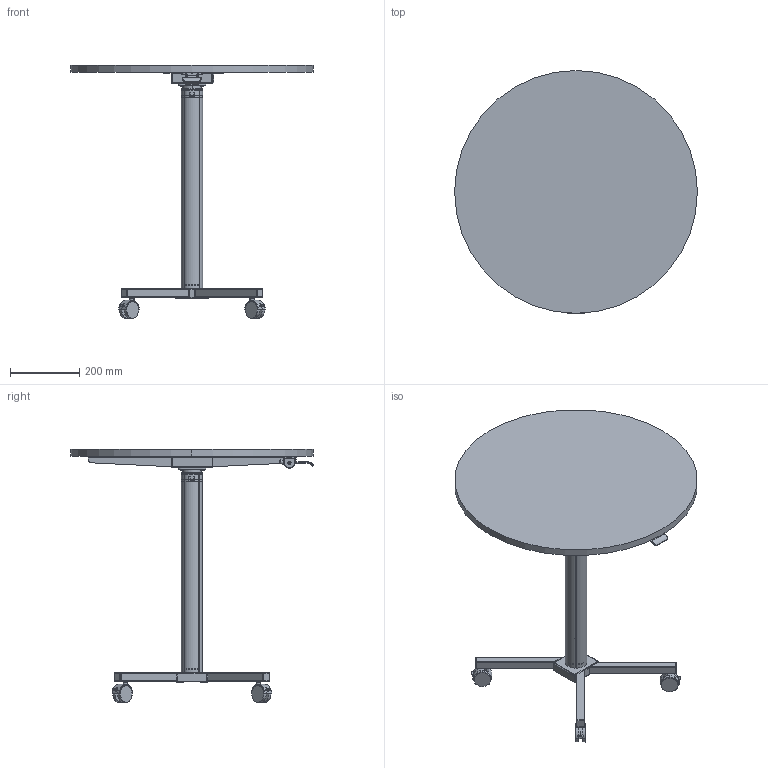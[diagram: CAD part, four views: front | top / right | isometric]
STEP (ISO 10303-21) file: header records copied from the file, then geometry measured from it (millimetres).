
FILE_DESCRIPTION((''),'2;1');
FILE_NAME('AK-QDZ01-ZY2-T687_ASM_5_ASM','2023-11-10T10:33:08',('RMF'),(''),'CREO PARAMETRIC BY PTC INC, 2019030','CREO PARAMETRIC BY PTC INC, 2019030','');
FILE_SCHEMA(('CONFIG_CONTROL_DESIGN'));
Length unit declared in the file: millimetre
Products named in the file (37): AK-XDJ01-1_1; AK-XDJ01-2_1; AK-XDJ01-3_1; AK-XDJ01_ASM_1_ASM; PART1_1; 25X25_1; AK01E-ZY2-M02_ASM_1_ASM; AK-QDZ01-ZY-XG-2_1_1; AK-QDZ01-ZY-XG-1_3_1; _X2_4E0B7BA1_X0__ASM_6_ASM_1_ASM; AK-QDZ01-ZY-SG-2_1_1; AK-QDZ01-ZY-SG-1_3_1; 1_96_008_4608X_AK-QDZ01-ZY-SG_A_ASM; 1_23_039_03_P-XYHT01_XY4_1_1; 1_96_008_4611X_AK-QDZ01-ZY-XZZ_; QITANGHUANG-RUBER_1_1; _X2_4E0B90E85206_X0__ASM_1_ASM__ASM; UL-YT-Z_6_30001_2_1_1; UL-YT-Z_6_1M10X10001_3_1_1; UL-YT-Z_6_20001_2_1_1; UL-YT-Z_6_40001_1_1_1; QITANGHUANG-NUT_1_1; _X2_6C145F397C274E0A7BA190E8520_ASM; ISO_8675_NUT_M10X1_STEEL_GRADE_; 1_96_050_1225_X2_5B9A52366C145F_ASM; GB-T818_H-2000_M6X14_1_1; _X2_56FA5B9A8F749500_X0__1_1_1; _X2_56FA5B9A8F749500_X0__2_1_1; _X2_56FA5B9A8F749500_X0__ASM_2__ASM; QDZ01-ZY2_ASM_3_ASM; AK-QDZ01-MB-1-V2_4; YZB_2; _X2_660E745E624B67C456FA5B9A5EA; _X2_660E745E624B67C4_X0__1_2; DXKG_ASM_1_ASM; HJSJ_2; AK-QDZ01-ZY2-T687_ASM_5_ASM
Assembly tree (48 placements, depth 5):
  AK-QDZ01-ZY2-T687_ASM_5_ASM
    AK01E-ZY2-M02_ASM_1_ASM
      AK-XDJ01_ASM_1_ASM
        AK-XDJ01-1_1
        AK-XDJ01-2_1  x2
        AK-XDJ01-3_1  x2
      PART1_1  x4
      25X25_1  x4
    QDZ01-ZY2_ASM_3_ASM
      _X2_4E0B7BA1_X0__ASM_6_ASM_1_ASM
        AK-QDZ01-ZY-XG-2_1_1
        AK-QDZ01-ZY-XG-1_3_1
      1_96_008_4608X_AK-QDZ01-ZY-SG_A_ASM
        AK-QDZ01-ZY-SG-2_1_1
        AK-QDZ01-ZY-SG-1_3_1
      1_23_039_03_P-XYHT01_XY4_1_1
      1_96_008_4611X_AK-QDZ01-ZY-XZZ_  x2
      1_96_050_1225_X2_5B9A52366C145F_ASM
        _X2_4E0B90E85206_X0__ASM_1_ASM__ASM
          QITANGHUANG-RUBER_1_1
        _X2_6C145F397C274E0A7BA190E8520_ASM
          UL-YT-Z_6_30001_2_1_1
          UL-YT-Z_6_1M10X10001_3_1_1
          UL-YT-Z_6_20001_2_1_1
          UL-YT-Z_6_40001_1_1_1
          QITANGHUANG-NUT_1_1
        ISO_8675_NUT_M10X1_STEEL_GRADE_
      GB-T818_H-2000_M6X14_1_1  x4
      _X2_56FA5B9A8F749500_X0__ASM_2__ASM
        _X2_56FA5B9A8F749500_X0__1_1_1
        _X2_56FA5B9A8F749500_X0__2_1_1
    AK-QDZ01-MB-1-V2_4
    YZB_2
    DXKG_ASM_1_ASM
      _X2_660E745E624B67C456FA5B9A5EA
      _X2_660E745E624B67C4_X0__1_2
    HJSJ_2
Bounding box: 700 x 700.44 x 729.5 mm (x, y, z)
Volume: 8798201.3 mm3; surface area: 1689925.9 mm2
Topology: 38 solids, 38 shells, 1850 faces, 4896 edges, 3040 vertices
Faces by surface type: cylinder 756, plane 699, torus 148, cone 79, sphere 76, bspline 60, revolution 32
Entity records: 50813 total; most frequent: CARTESIAN_POINT 13875, DIRECTION 7746, ORIENTED_EDGE 7640, EDGE_CURVE 3820, AXIS2_PLACEMENT_3D 2994, VERTEX_POINT 2443, VECTOR 1726, LINE 1726
